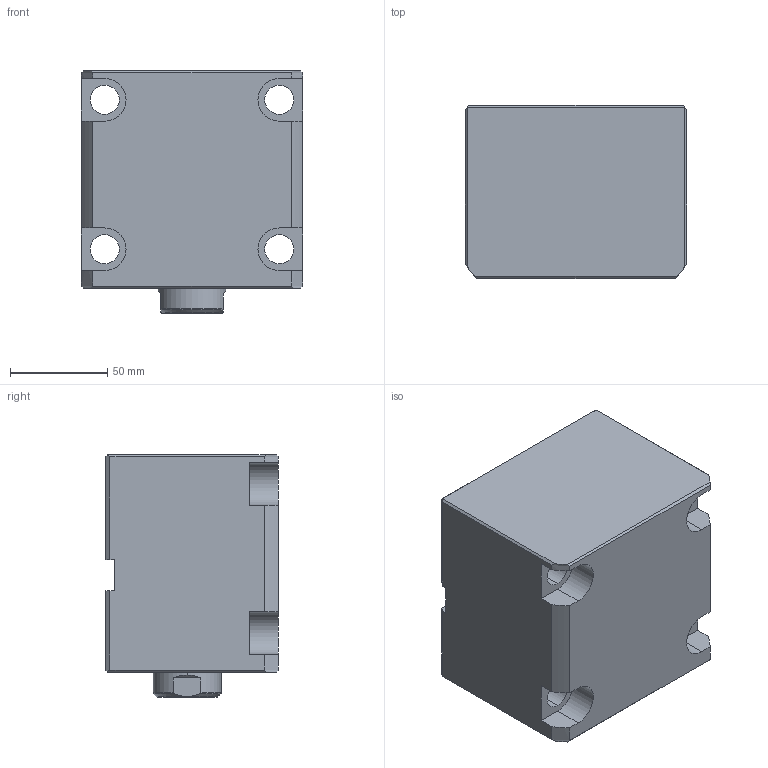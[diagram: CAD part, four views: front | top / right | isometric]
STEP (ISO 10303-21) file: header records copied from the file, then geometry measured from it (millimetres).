
FILE_DESCRIPTION (( 'STEP AP214' ), '1' );
FILE_NAME ('chtb-lam63x45n_asm.STEP', '2018-05-22T03:06:04', ( 'Windows' ), ( 'Microsoft' ), 'SwSTEP 2.0', 'SolidWorks 2015', '' );
FILE_SCHEMA (( 'AUTOMOTIVE_DESIGN' ));
Length unit declared in the file: millimetre
Products named in the file (4): CHTB63X45NHSG; CHTB-63QG; chtb-lam63x45n_asm; CHTB-LAM63X45NBT
Assembly tree (3 placements, depth 2):
  chtb-lam63x45n_asm
    CHTB-63QG
    CHTB63X45NHSG
    CHTB-LAM63X45NBT
Bounding box: 114 x 89 x 125 mm (x, y, z)
Volume: 950228.7 mm3; surface area: 142206.7 mm2
Topology: 3 solids, 3 shells, 176 faces, 524 edges, 356 vertices
Faces by surface type: cylinder 96, plane 51, bspline 13, cone 8, torus 8
Entity records: 18805 total; most frequent: CARTESIAN_POINT 14319, ORIENTED_EDGE 1036, DIRECTION 751, EDGE_CURVE 518, VERTEX_POINT 356, AXIS2_PLACEMENT_3D 277, EDGE_LOOP 198, LINE 197
